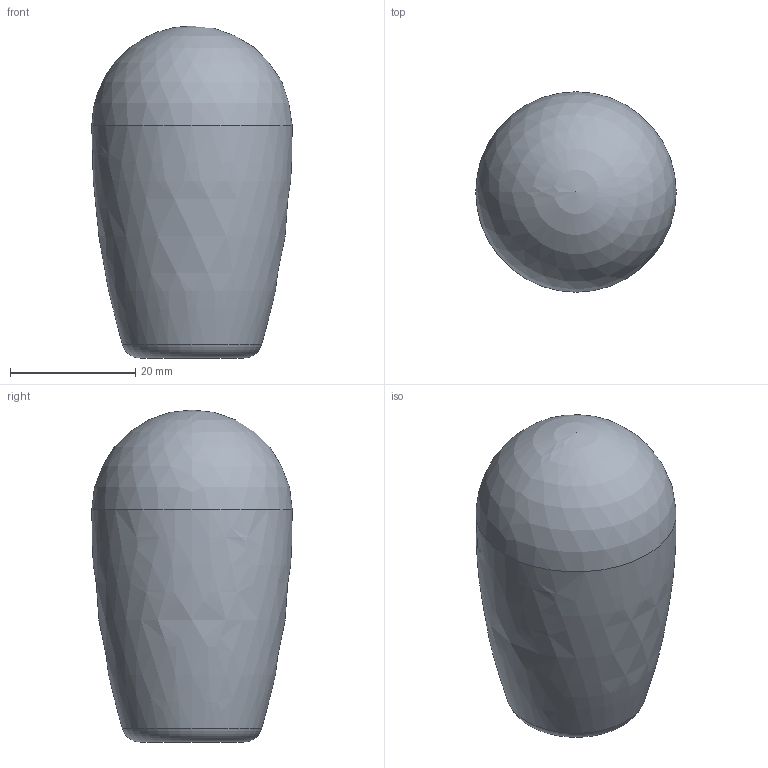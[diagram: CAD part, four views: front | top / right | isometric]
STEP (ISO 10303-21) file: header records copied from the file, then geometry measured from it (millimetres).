
FILE_DESCRIPTION( ('This file contains a STEP AP42 implementation' ,'as created by ZW3D STEP Interface translator.') ,'2;1' );
FILE_NAME( 'Galka owalna B 32.10.stp' ,'26 813. 73349', (''), ('ZWCAD Software Co.'), 'Version 1.0', 'ZW3D to STEP translator', '' );
FILE_SCHEMA(('AP242_MANAGED_MODEL_BASED_3D_ENGINEERING_MIM_LF { 1 0 10303 442 1 1 4 }'));
Length unit declared in the file: millimetre
Products named in the file (1): 0
Bounding box: 32 x 32 x 53 mm (x, y, z)
Volume: 30754 mm3; surface area: 6194.3 mm2
Topology: 1 solids, 1 shells, 8 faces, 14 edges, 8 vertices
Faces by surface type: cylinder 2, plane 2, sphere 1, bspline 1, torus 1, cone 1
Full cylindrical faces by diameter (mm): 6.8 x2
Entity records: 248 total; most frequent: CARTESIAN_POINT 56, DIRECTION 39, ORIENTED_EDGE 26, AXIS2_PLACEMENT_3D 18, EDGE_CURVE 13, CIRCLE 10, EDGE_LOOP 9, VERTEX_POINT 8
